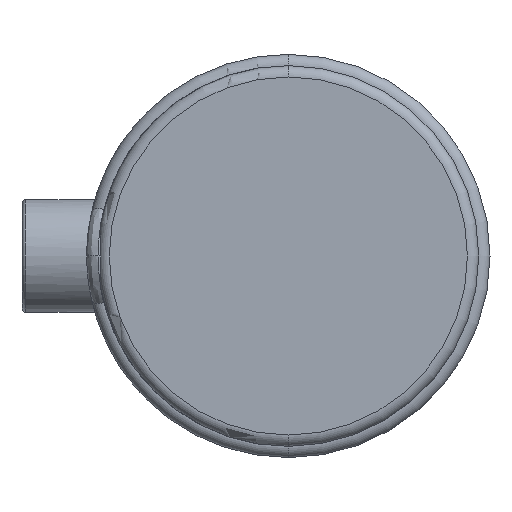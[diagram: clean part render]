
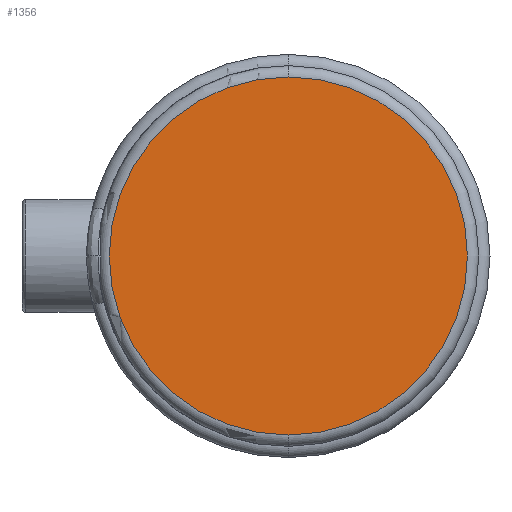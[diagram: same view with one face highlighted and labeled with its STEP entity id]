
A CAD part, left-side view. The second image highlights one B-rep face of the part: STEP entity #1356.
In plain terms, the highlighted planar face has unit normal (-1, 0, 0).
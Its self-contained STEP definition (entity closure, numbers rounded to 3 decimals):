
#172 = AXIS2_PLACEMENT_3D ( 'NONE', #4369, #1579, #4848 ) ;
#605 = ORIENTED_EDGE ( 'NONE', *, *, #2806, .T. ) ;
#981 = ORIENTED_EDGE ( 'NONE', *, *, #3778, .T. ) ;
#1003 = DIRECTION ( 'NONE',  ( 0., 0., 1. ) ) ;
#1073 = PLANE ( 'NONE',  #4622 ) ;
#1349 = CARTESIAN_POINT ( 'NONE',  ( 0., 0., 0. ) ) ;
#1356 = ADVANCED_FACE ( 'NONE', ( #4755 ), #1073, .T. ) ;
#1474 = DIRECTION ( 'NONE',  ( -1., 0., 0. ) ) ;
#1579 = DIRECTION ( 'NONE',  ( -1., 0., 0. ) ) ;
#1813 = DIRECTION ( 'NONE',  ( 0., 0., 1. ) ) ;
#1990 = VERTEX_POINT ( 'NONE', #3261 ) ;
#2806 = EDGE_CURVE ( 'NONE', #1990, #4715, #4749, .T. ) ;
#3261 = CARTESIAN_POINT ( 'NONE',  ( 0., 0., -47.6 ) ) ;
#3778 = EDGE_CURVE ( 'NONE', #4715, #1990, #5326, .T. ) ;
#4199 = CARTESIAN_POINT ( 'NONE',  ( 0., 0., 47.6 ) ) ;
#4369 = CARTESIAN_POINT ( 'NONE',  ( 0., 0., 0. ) ) ;
#4612 = DIRECTION ( 'NONE',  ( -1., 0., 0. ) ) ;
#4622 = AXIS2_PLACEMENT_3D ( 'NONE', #4684, #1474, #1003 ) ;
#4684 = CARTESIAN_POINT ( 'NONE',  ( 0., 0., 0. ) ) ;
#4715 = VERTEX_POINT ( 'NONE', #4199 ) ;
#4749 = CIRCLE ( 'NONE', #5218, 47.6 ) ;
#4755 = FACE_OUTER_BOUND ( 'NONE', #5423, .T. ) ;
#4848 = DIRECTION ( 'NONE',  ( 0., 0., 1. ) ) ;
#5218 = AXIS2_PLACEMENT_3D ( 'NONE', #1349, #4612, #1813 ) ;
#5326 = CIRCLE ( 'NONE', #172, 47.6 ) ;
#5423 = EDGE_LOOP ( 'NONE', ( #981, #605 ) ) ;
